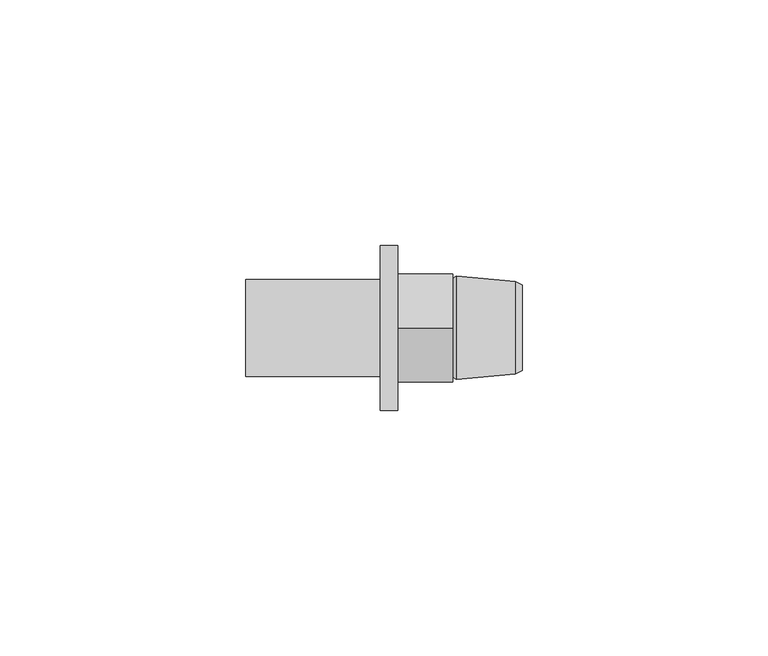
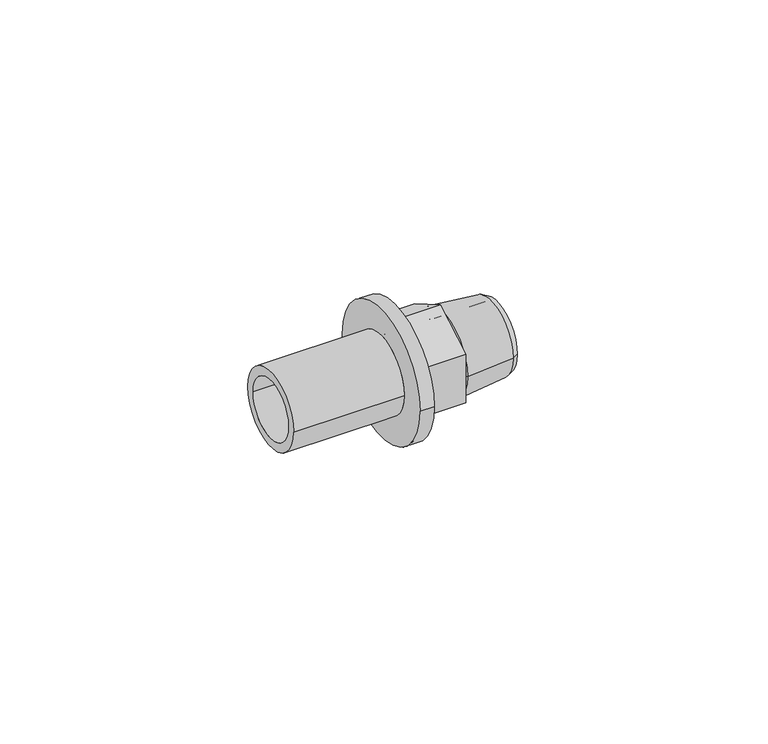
"""IFC4 building model written with IfcOpenShell, lengths in millimetres: pipe fitting geometry, REHAU_RAUTITAN_Adaptor_RX+, with external thread : REHAU_RAUTITAN_Adaptor_RX+, with external thread."""

from ifc_helpers import new_model, si_unit, point, frame, origin, origin_2d, place, context, project, spatial, polyline, circle_curve, trimmed, segment, composite_curve, outline, extrude, source, transform, mapped, element, save
from ifc_brep_helpers import plane_surface, cylinder_surface, revolved_surface, advanced_brep


def pipe_fitting_f3fac54c(model_context):
    return source(origin(), model_context, "Body", "SolidModel", [
        advanced_brep(
        [(12.2732803, 7.5, 0.0), (12.2732803, -7.5, 0.0), (25.38, -7.5, 0.0), (25.38, 7.5, 0.0), (11.17, 6.3967197, 0.0), (11.17, -6.3967197, 0.0), (11.9106902, 10.55, 0.0), (11.9106902, -10.55, 0.0), (11.17, -10.0, 0.0), (11.17, 10.0, 0.0), (23.8800007, 9.42, 0.0), (23.8800007, -9.42, 0.0), (25.38, 8.675, 0.0), (25.38, -8.675, 0.0)],
        [
            (0, 1, circle_curve(frame((12.2732803, 0.0, 0.0), z_axis=(-1.0, 0.0, 0.0), x_axis=(0.0, -1.0, 0.0)), 7.5)),
            (1, 2),
            (2, 3, circle_curve(frame((25.38, 0.0, 0.0), z_axis=(1.0, 0.0, 0.0), x_axis=(0.0, -1.0, 0.0)), 7.5)),
            (3, 0),
            (4, 5, circle_curve(frame((11.17, 0.0, 0.0), z_axis=(-1.0, 0.0, 0.0), x_axis=(0.0, -1.0, 0.0)), 6.3967197)),
            (5, 1),
            (0, 4),
            (6, 7, circle_curve(frame((11.9106902, 0.0, 0.0), z_axis=(-1.0, 0.0, 0.0), x_axis=(0.0, -1.0, 0.0)), 10.55)),
            (7, 8),
            (8, 9, circle_curve(frame((11.17, 0.0, 0.0), z_axis=(1.0, 0.0, 0.0), x_axis=(0.0, -1.0, 0.0)), 10.0)),
            (9, 6),
            (10, 11, circle_curve(frame((23.8800007, 0.0, 0.0), z_axis=(-1.0, 0.0, 0.0), x_axis=(0.0, -1.0, 0.0)), 9.42)),
            (11, 7),
            (6, 10),
            (12, 13, circle_curve(frame((25.38, 0.0, 0.0), z_axis=(-1.0, 0.0, 0.0), x_axis=(0.0, -1.0, 0.0)), 8.675)),
            (13, 11),
            (10, 12),
            (1, 0, circle_curve(frame((12.2732803, 0.0, 0.0), z_axis=(-1.0, 0.0, 0.0), x_axis=(0.0, 1.0, 0.0)), 7.5)),
            (3, 2, circle_curve(frame((25.38, 0.0, 0.0), z_axis=(1.0, 0.0, 0.0), x_axis=(0.0, 1.0, 0.0)), 7.5)),
            (5, 4, circle_curve(frame((11.17, 0.0, 0.0), z_axis=(-1.0, 0.0, 0.0), x_axis=(0.0, 1.0, 0.0)), 6.3967197)),
            (8, 9, circle_curve(frame((11.17, 0.0, 0.0), z_axis=(-1.0, 0.0, 0.0), x_axis=(0.0, 1.0, 0.0)), 10.0)),
            (7, 6, circle_curve(frame((11.9106902, 0.0, 0.0), z_axis=(-1.0, 0.0, 0.0), x_axis=(0.0, 1.0, 0.0)), 10.55)),
            (11, 10, circle_curve(frame((23.8800007, 0.0, 0.0), z_axis=(-1.0, 0.0, 0.0), x_axis=(0.0, 1.0, 0.0)), 9.42)),
            (13, 12, circle_curve(frame((25.38, 0.0, 0.0), z_axis=(-1.0, 0.0, 0.0), x_axis=(0.0, 1.0, 0.0)), 8.675)),
        ],
        [
            revolved_surface(polyline([(25.38, -7.5, 0.0), (12.2732803, -7.5, 0.0)]), (0.0, 0.0, 0.0), (1.0, 0.0, 0.0)),
            revolved_surface(polyline([(12.2732803, -7.5, 0.0), (11.17, -6.3967197, 0.0)]), (0.0, 0.0, 0.0), (1.0, 0.0, 0.0)),
            revolved_surface(polyline([(11.17, -10.0, 0.0), (11.9106902, -10.55, 0.0)]), (0.0, 0.0, 0.0), (1.0, 0.0, 0.0)),
            revolved_surface(polyline([(11.9106902, -10.55, 0.0), (23.8800007, -9.42, 0.0)]), (0.0, 0.0, 0.0), (1.0, 0.0, 0.0)),
            revolved_surface(polyline([(23.8800007, -9.42, 0.0), (25.38, -8.675, 0.0)]), (0.0, 0.0, 0.0), (1.0, 0.0, 0.0)),
            revolved_surface(polyline([(25.38, 7.5, 0.0), (12.2732803, 7.5, 0.0)]), (0.0, 0.0, 0.0), (1.0, 0.0, 0.0)),
            revolved_surface(polyline([(12.2732803, 7.5, 0.0), (11.17, 6.3967197, 0.0)]), (0.0, 0.0, 0.0), (1.0, 0.0, 0.0)),
            plane_surface(frame((11.17, 0.0, 0.0), z_axis=(-1.0, 0.0, 0.0), x_axis=(0.0, 1.0, 0.0))),
            revolved_surface(polyline([(11.17, 10.0, 0.0), (11.9106902, 10.55, 0.0)]), (0.0, 0.0, 0.0), (1.0, 0.0, 0.0)),
            revolved_surface(polyline([(11.9106902, 10.55, 0.0), (23.8800007, 9.42, 0.0)]), (0.0, 0.0, 0.0), (1.0, 0.0, 0.0)),
            revolved_surface(polyline([(23.8800007, 9.42, 0.0), (25.38, 8.675, 0.0)]), (0.0, 0.0, 0.0), (1.0, 0.0, 0.0)),
            plane_surface(frame((25.38, 0.0, 0.0), z_axis=(1.0, 0.0, 0.0), x_axis=(0.0, 1.0, 0.0))),
        ],
        [
            (0, [[1, 2, 3, 4]]),
            (1, [[5, 6, -1, 7]]),
            (2, [[8, 9, 10, 11]]),
            (3, [[12, 13, -8, 14]]),
            (4, [[15, 16, -12, 17]]),
            (5, [[18, -4, 19, -2]]),
            (6, [[20, -7, -18, -6]]),
            (7, [[21, -10], [-20, -5]]),
            (8, [[22, -11, -21, -9]]),
            (9, [[23, -14, -22, -13]]),
            (10, [[24, -17, -23, -16]]),
            (11, [[-24, -15], [-19, -3]]),
        ],
    ),
        extrude(outline(polyline([(0.0, -12.7017059), (-11.0, -6.350853), (-11.0, 6.350853), (0.0, 12.7017059), (11.0, 6.350853), (11.0, -6.350853), (0.0, -12.7017059)]), holes=[composite_curve([segment(trimmed(circle_curve(origin_2d(), 7.6), [point((-7.6, 0.0))], [point((7.6, 0.0))], True, "CARTESIAN"), True, "CONTINUOUS"), segment(trimmed(circle_curve(origin_2d(), 7.6), [point((7.6, 0.0))], [point((-7.6, 0.0))], True, "CARTESIAN"), True, "CONTINUOUS")], self_intersect=False)]), frame((0.0, 0.0, 0.0), z_axis=(1.0, 0.0, 0.0), x_axis=(0.0, 1.0, 0.0)), (0.0, 0.0, 1.0), 11.17),
        advanced_brep(
        [(-31.02, 7.6, 0.0), (-31.02, -7.6, 0.0), (0.0, -7.6, 0.0), (0.0, 7.6, 0.0), (-3.54, 9.875, 0.0), (-3.54, -9.875, 0.0), (-31.02, -9.875, 0.0), (-31.02, 9.875, 0.0), (0.0, 16.8, 0.0), (0.0, -16.8, 0.0), (-3.54, -16.8, 0.0), (-3.54, 16.8, 0.0)],
        [
            (0, 1, circle_curve(frame((-31.02, 0.0, 0.0), z_axis=(-1.0, 0.0, 0.0), x_axis=(0.0, -1.0, 0.0)), 7.6)),
            (1, 2),
            (2, 3, circle_curve(frame((0.0, 0.0, 0.0), z_axis=(1.0, 0.0, 0.0), x_axis=(0.0, -1.0, 0.0)), 7.6)),
            (3, 0),
            (4, 5, circle_curve(frame((-3.54, 0.0, 0.0), z_axis=(-1.0, 0.0, 0.0), x_axis=(0.0, -1.0, 0.0)), 9.875)),
            (5, 6),
            (6, 7, circle_curve(frame((-31.02, 0.0, 0.0), z_axis=(1.0, 0.0, 0.0), x_axis=(0.0, -1.0, 0.0)), 9.875)),
            (7, 4),
            (8, 9, circle_curve(frame((0.0, 0.0, 0.0), z_axis=(-1.0, 0.0, 0.0), x_axis=(0.0, -1.0, 0.0)), 16.8)),
            (9, 10),
            (10, 11, circle_curve(frame((-3.54, 0.0, 0.0), z_axis=(1.0, 0.0, 0.0), x_axis=(0.0, -1.0, 0.0)), 16.8)),
            (11, 8),
            (8, 9, circle_curve(frame((0.0, 0.0, 0.0), z_axis=(1.0, 0.0, 0.0), x_axis=(0.0, 1.0, 0.0)), 16.8)),
            (2, 3, circle_curve(frame((0.0, 0.0, 0.0), z_axis=(-1.0, 0.0, 0.0), x_axis=(0.0, 1.0, 0.0)), 7.6)),
            (1, 0, circle_curve(frame((-31.02, 0.0, 0.0), z_axis=(-1.0, 0.0, 0.0), x_axis=(0.0, 1.0, 0.0)), 7.6)),
            (6, 7, circle_curve(frame((-31.02, 0.0, 0.0), z_axis=(-1.0, 0.0, 0.0), x_axis=(0.0, 1.0, 0.0)), 9.875)),
            (5, 4, circle_curve(frame((-3.54, 0.0, 0.0), z_axis=(-1.0, 0.0, 0.0), x_axis=(0.0, 1.0, 0.0)), 9.875)),
            (10, 11, circle_curve(frame((-3.54, 0.0, 0.0), z_axis=(-1.0, 0.0, 0.0), x_axis=(0.0, 1.0, 0.0)), 16.8)),
        ],
        [
            revolved_surface(polyline([(0.0, -7.6, 0.0), (-31.02, -7.6, 0.0)]), (0.0, 0.0, 0.0), (1.0, 0.0, 0.0)),
            cylinder_surface(frame((0.0, 0.0, 0.0), z_axis=(1.0, 0.0, 0.0), x_axis=(0.0, -1.0, 0.0)), 9.875),
            cylinder_surface(frame((0.0, 0.0, 0.0), z_axis=(1.0, 0.0, 0.0), x_axis=(0.0, -1.0, 0.0)), 16.8),
            plane_surface(frame((0.0, 0.0, 0.0), z_axis=(1.0, 0.0, 0.0), x_axis=(0.0, 1.0, 0.0))),
            revolved_surface(polyline([(0.0, 7.6, 0.0), (-31.02, 7.6, 0.0)]), (0.0, 0.0, 0.0), (1.0, 0.0, 0.0)),
            plane_surface(frame((-31.02, 0.0, 0.0), z_axis=(-1.0, 0.0, 0.0), x_axis=(0.0, 1.0, 0.0))),
            cylinder_surface(frame((0.0, 0.0, 0.0), z_axis=(1.0, 0.0, 0.0), x_axis=(0.0, 1.0, 0.0)), 9.875),
            plane_surface(frame((-3.54, 0.0, 0.0), z_axis=(-1.0, 0.0, 0.0), x_axis=(0.0, 1.0, 0.0))),
            cylinder_surface(frame((0.0, 0.0, 0.0), z_axis=(1.0, 0.0, 0.0), x_axis=(0.0, 1.0, 0.0)), 16.8),
        ],
        [
            (0, [[1, 2, 3, 4]]),
            (1, [[5, 6, 7, 8]]),
            (2, [[9, 10, 11, 12]]),
            (3, [[13, -9], [14, -3]]),
            (4, [[15, -4, -14, -2]]),
            (5, [[16, -7], [-15, -1]]),
            (6, [[17, -8, -16, -6]]),
            (7, [[18, -11], [-17, -5]]),
            (8, [[-13, -12, -18, -10]]),
        ],
    ),
    ])


if __name__ == "__main__":
    model = new_model("IFC4")
    model_context = context("Model", 3, world=origin())
    ifc_project = project(units=[si_unit("LENGTHUNIT", "METRE", prefix="MILLI")], contexts=[model_context])
    site = spatial("IfcSite", under=ifc_project)
    building = spatial("IfcBuilding", under=site)
    placement = place(None, origin())
    pipe_fitting_shape = pipe_fitting_f3fac54c(model_context)
    element("IfcPipeFitting", 1, ObjectType="REHAU_RAUTITAN_Adaptor_RX+, with external thread : REHAU_RAUTITAN_Adaptor_RX+, with external thread", at=placement, inside=building, context=model_context, shape_type="MappedRepresentation", body=[
        mapped(pipe_fitting_shape, transform((0.0, 0.0, 0.0), x_axis=(1.0, 0.0, 0.0), y_axis=(0.0, 1.0, 0.0), z_axis=(0.0, 0.0, 1.0))),
    ])
    save(model, "model.ifc")
